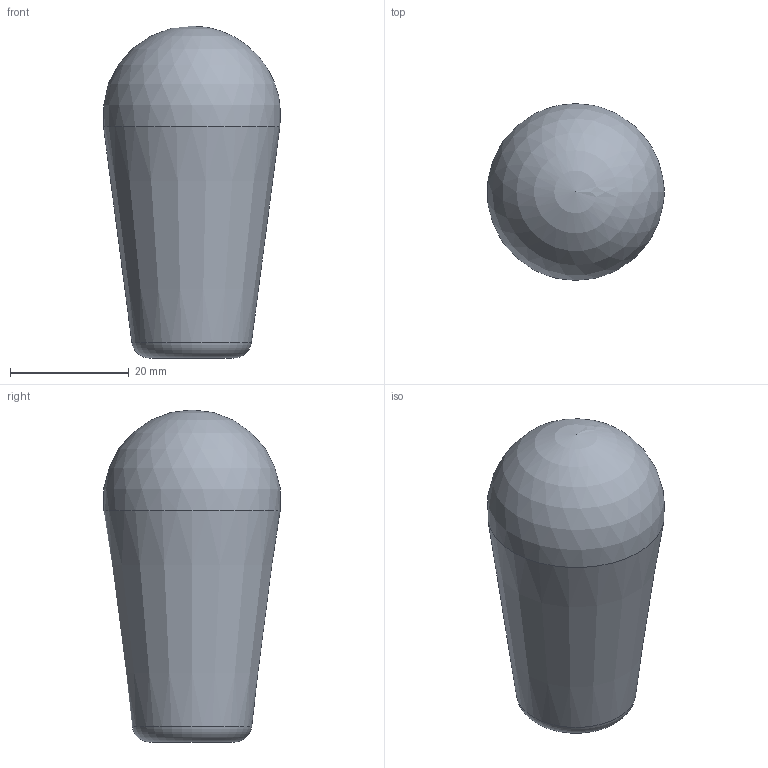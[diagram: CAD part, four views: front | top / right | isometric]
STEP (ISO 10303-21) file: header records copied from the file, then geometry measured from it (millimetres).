
FILE_DESCRIPTION( ('This file contains a STEP AP42 implementation' ,'as created by ZW3D STEP Interface translator.') ,'2;1' );
FILE_NAME( 'Galka stozkowa B30.stp' ,'26 4 3. 75925', (''), ('ZWCAD Software Co.'), 'Version 1.0', 'ZW3D to STEP translator', '' );
FILE_SCHEMA(('AP242_MANAGED_MODEL_BASED_3D_ENGINEERING_MIM_LF { 1 0 10303 442 1 1 4 }'));
Length unit declared in the file: millimetre
Products named in the file (1): 0
Bounding box: 29.86 x 29.81 x 56 mm (x, y, z)
Volume: 25086.7 mm3; surface area: 5855.6 mm2
Topology: 1 solids, 1 shells, 8 faces, 20 edges, 20 vertices
Faces by surface type: cone 2, cylinder 2, plane 2, torus 1, sphere 1
Full cylindrical faces by diameter (mm): 8.5 x2
Entity records: 273 total; most frequent: DIRECTION 49, CARTESIAN_POINT 37, ORIENTED_EDGE 26, AXIS2_PLACEMENT_3D 21, EDGE_CURVE 13, CIRCLE 12, EDGE_LOOP 9, VERTEX_POINT 8
